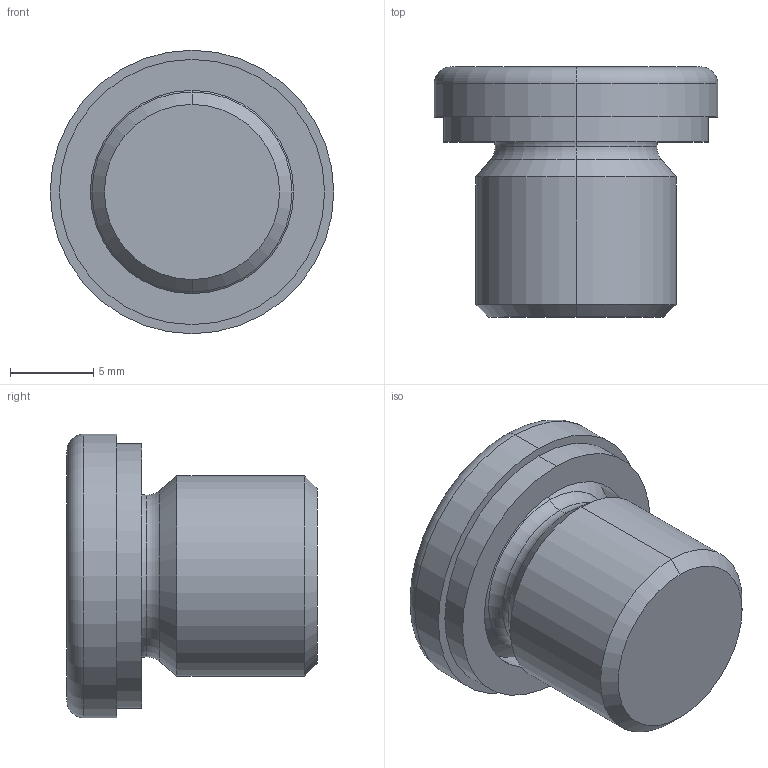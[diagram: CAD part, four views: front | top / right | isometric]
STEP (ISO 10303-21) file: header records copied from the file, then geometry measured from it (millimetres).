
FILE_DESCRIPTION (( 'STEP AP214' ), '1' );
FILE_NAME ('908-ST-M12x1,5-AN.step', '2024-12-19T09:19:03', ( '' ), ( '' ), 'SwSTEP 2.0', 'SolidWorks 2022', '' );
FILE_SCHEMA (( 'AUTOMOTIVE_DESIGN' ));
Length unit declared in the file: millimetre
Products named in the file (1): 908-ST-M12x1,5-AN
Bounding box: 17 x 15 x 17 mm (x, y, z)
Volume: 1835.4 mm3; surface area: 1310.2 mm2
Topology: 1 solids, 1 shells, 31 faces, 64 edges, 38 vertices
Faces by surface type: plane 11, cylinder 8, torus 6, cone 6
Entity records: 929 total; most frequent: DIRECTION 160, CARTESIAN_POINT 134, ORIENTED_EDGE 128, AXIS2_PLACEMENT_3D 64, EDGE_CURVE 64, VERTEX_POINT 38, EDGE_LOOP 34, LINE 32
